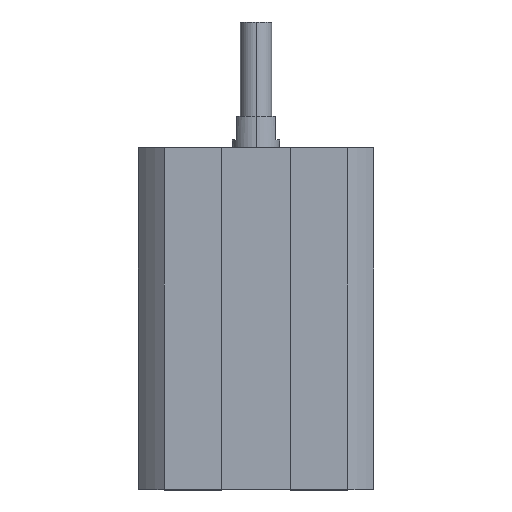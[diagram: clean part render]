
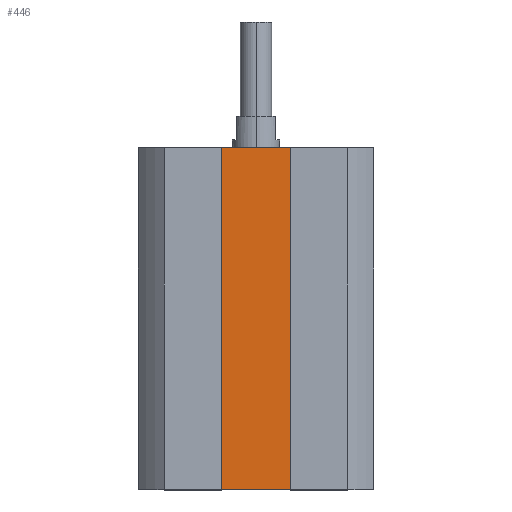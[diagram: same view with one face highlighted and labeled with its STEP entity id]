
A CAD part, top view. The second image highlights one B-rep face of the part: STEP entity #446.
In plain terms, the highlighted planar face has unit normal (0, 0, 1).
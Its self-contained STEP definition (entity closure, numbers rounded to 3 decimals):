
#22 = AXIS2_PLACEMENT_3D ( 'NONE', #892, #1235, #515 ) ;
#36 = LINE ( 'NONE', #2136, #1626 ) ;
#77 = VECTOR ( 'NONE', #1966, 1000. ) ;
#129 = VECTOR ( 'NONE', #1739, 1000. ) ;
#289 = VERTEX_POINT ( 'NONE', #1909 ) ;
#335 = LINE ( 'NONE', #1528, #1227 ) ;
#379 = PLANE ( 'NONE',  #22 ) ;
#405 = CARTESIAN_POINT ( 'NONE',  ( 4.4, 0., 10. ) ) ;
#446 = ADVANCED_FACE ( 'NONE', ( #488 ), #379, .T. ) ;
#488 = FACE_OUTER_BOUND ( 'NONE', #1426, .T. ) ;
#515 = DIRECTION ( 'NONE',  ( 1., 0., 0. ) ) ;
#547 = VERTEX_POINT ( 'NONE', #405 ) ;
#583 = EDGE_CURVE ( 'NONE', #1000, #289, #36, .T. ) ;
#610 = CARTESIAN_POINT ( 'NONE',  ( -4.4, -43.5, 10. ) ) ;
#852 = LINE ( 'NONE', #1074, #129 ) ;
#892 = CARTESIAN_POINT ( 'NONE',  ( 0., -43.5, 10. ) ) ;
#1000 = VERTEX_POINT ( 'NONE', #610 ) ;
#1074 = CARTESIAN_POINT ( 'NONE',  ( 0., -43.5, 10. ) ) ;
#1224 = ORIENTED_EDGE ( 'NONE', *, *, #2028, .T. ) ;
#1227 = VECTOR ( 'NONE', #2192, 1000. ) ;
#1235 = DIRECTION ( 'NONE',  ( 0., 0., 1. ) ) ;
#1283 = VERTEX_POINT ( 'NONE', #2117 ) ;
#1426 = EDGE_LOOP ( 'NONE', ( #1520, #1496, #1875, #1224 ) ) ;
#1445 = CARTESIAN_POINT ( 'NONE',  ( 0., 0., 10. ) ) ;
#1496 = ORIENTED_EDGE ( 'NONE', *, *, #583, .F. ) ;
#1520 = ORIENTED_EDGE ( 'NONE', *, *, #1529, .F. ) ;
#1528 = CARTESIAN_POINT ( 'NONE',  ( 4.4, -43.5, 10. ) ) ;
#1529 = EDGE_CURVE ( 'NONE', #289, #547, #2032, .T. ) ;
#1626 = VECTOR ( 'NONE', #1959, 1000. ) ;
#1739 = DIRECTION ( 'NONE',  ( 1., 0., 0. ) ) ;
#1875 = ORIENTED_EDGE ( 'NONE', *, *, #1969, .T. ) ;
#1909 = CARTESIAN_POINT ( 'NONE',  ( -4.4, 0., 10. ) ) ;
#1959 = DIRECTION ( 'NONE',  ( 0., 1., 0. ) ) ;
#1966 = DIRECTION ( 'NONE',  ( 1., 0., 0. ) ) ;
#1969 = EDGE_CURVE ( 'NONE', #1000, #1283, #852, .T. ) ;
#2028 = EDGE_CURVE ( 'NONE', #1283, #547, #335, .T. ) ;
#2032 = LINE ( 'NONE', #1445, #77 ) ;
#2117 = CARTESIAN_POINT ( 'NONE',  ( 4.4, -43.5, 10. ) ) ;
#2136 = CARTESIAN_POINT ( 'NONE',  ( -4.4, -43.5, 10. ) ) ;
#2192 = DIRECTION ( 'NONE',  ( 0., 1., 0. ) ) ;
